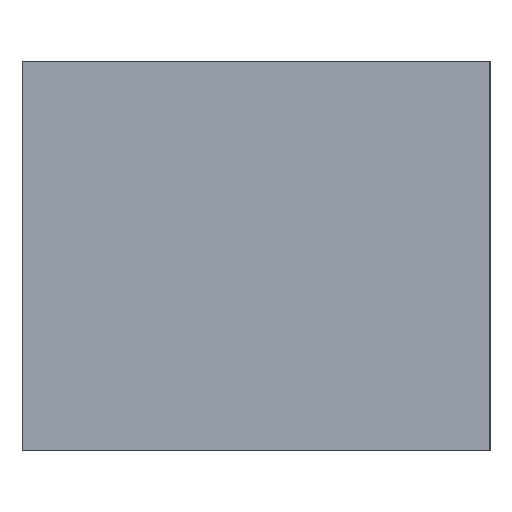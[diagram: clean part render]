
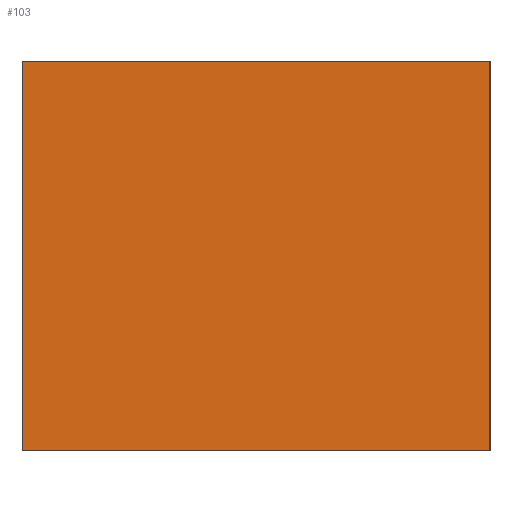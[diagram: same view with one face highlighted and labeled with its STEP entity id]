
A CAD part, left-side view. The second image highlights one B-rep face of the part: STEP entity #103.
In plain terms, the highlighted planar face has unit normal (-1, 0, 0).
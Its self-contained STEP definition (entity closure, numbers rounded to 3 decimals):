
#103=ADVANCED_FACE('',(#225),#227,.T.);
#225=FACE_BOUND('',#226,.T.);
#226=EDGE_LOOP('',(#312,#313,#314,#315));
#227=PLANE('',#228);
#228=AXIS2_PLACEMENT_3D('',#229,#230,#231);
#229=CARTESIAN_POINT('',(-120.,12.,0.));
#230=DIRECTION('',(-1.,0.,0.));
#231=DIRECTION('',(0.,-1.,0.));
#312=ORIENTED_EDGE('',*,*,#356,.T.);
#313=ORIENTED_EDGE('',*,*,#370,.T.);
#314=ORIENTED_EDGE('',*,*,#371,.F.);
#315=ORIENTED_EDGE('',*,*,#372,.F.);
#356=EDGE_CURVE('',#391,#389,#392,.T.);
#370=EDGE_CURVE('',#389,#415,#417,.T.);
#371=EDGE_CURVE('',#418,#415,#419,.T.);
#372=EDGE_CURVE('',#391,#418,#420,.T.);
#389=VERTEX_POINT('',#445);
#391=VERTEX_POINT('',#449);
#392=LINE('',#450,#451);
#415=VERTEX_POINT('',#501);
#417=LINE('',#505,#506);
#418=VERTEX_POINT('',#508);
#419=LINE('',#509,#510);
#420=LINE('',#512,#513);
#445=CARTESIAN_POINT('',(-120.,0.,0.));
#449=CARTESIAN_POINT('',(-120.,12.,0.));
#450=CARTESIAN_POINT('',(-120.,12.,0.));
#451=VECTOR('',#452,1.);
#452=DIRECTION('',(0.,-1.,0.));
#501=CARTESIAN_POINT('',(-120.,0.,10.));
#505=CARTESIAN_POINT('',(-120.,0.,0.));
#506=VECTOR('',#507,1.);
#507=DIRECTION('',(0.,0.,1.));
#508=CARTESIAN_POINT('',(-120.,12.,10.));
#509=CARTESIAN_POINT('',(-120.,12.,10.));
#510=VECTOR('',#511,1.);
#511=DIRECTION('',(0.,-1.,0.));
#512=CARTESIAN_POINT('',(-120.,12.,0.));
#513=VECTOR('',#514,1.);
#514=DIRECTION('',(0.,0.,1.));
